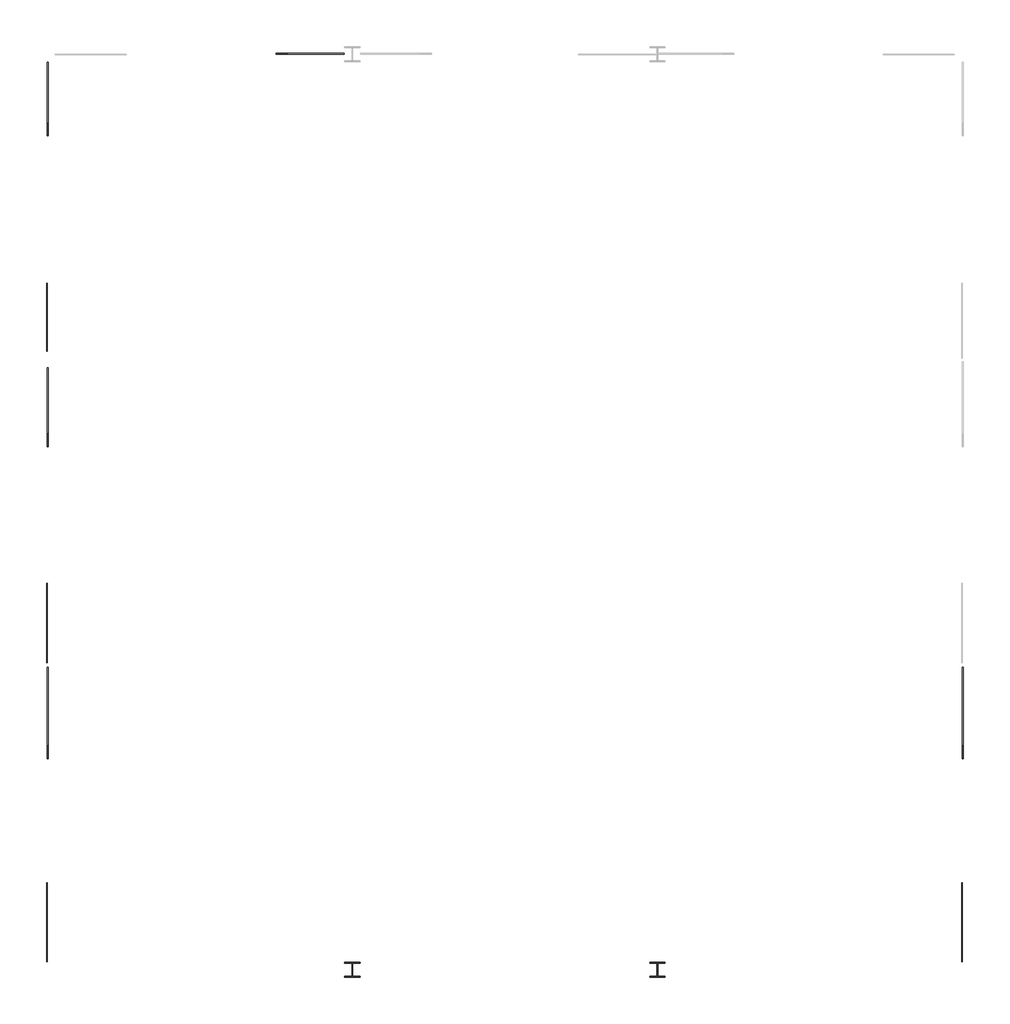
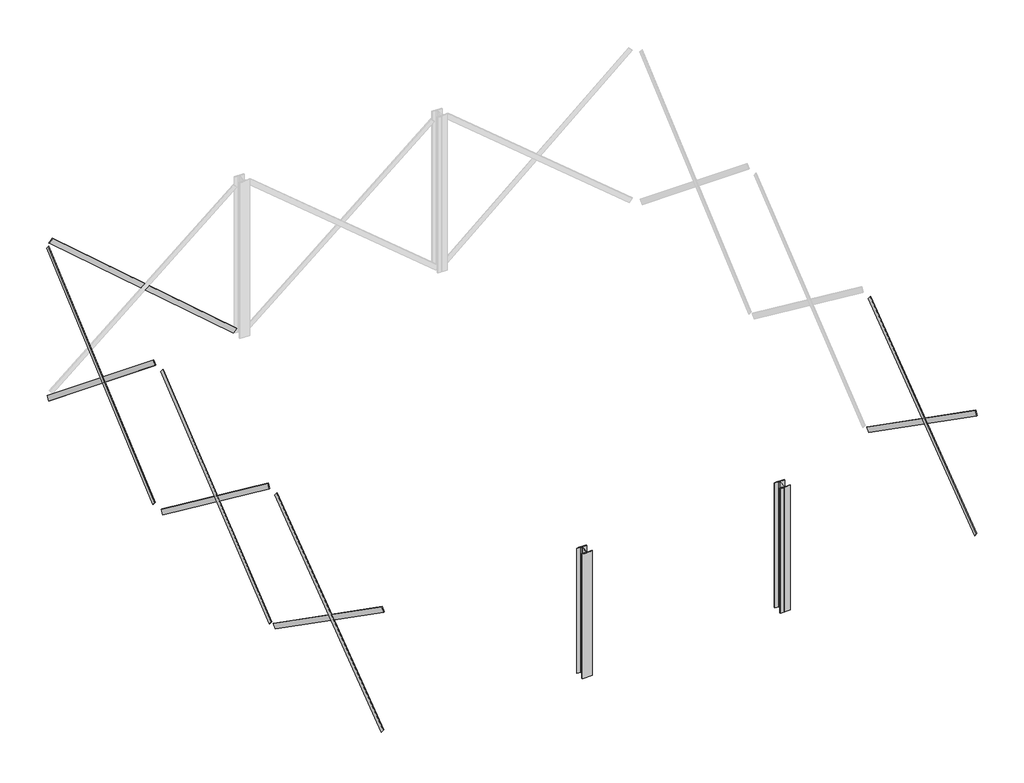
# One storey, part 1 of 2: 9 beams, 2 columns.
"""IFC4 building model written with IfcOpenShell, lengths in millimetres."""

from ifc_helpers import new_model, si_unit, frame, origin, place, context, project, spatial, polyline, circle_curve, ellipse_curve, transform, mapped, element, save
from ifc_brep_helpers import plane_surface, cylinder_surface, revolved_surface, advanced_brep
from components import m_platte_15x150_a1af23a7, m_platte_15x150_440fb802, m_platte_15x150_b669a1dd, m_platte_15x150_a89569ab, m_platte_15x150_ec3b9510

model = new_model("IFC4")

# Units and contexts
model_context = context("Model", 3, world=origin())
ifc_project = project(units=[si_unit("LENGTHUNIT", "METRE", prefix="MILLI")], contexts=[model_context])

# Site, building, storey
site = spatial("IfcSite", under=ifc_project)
building = spatial("IfcBuilding", under=site)
storey = spatial("IfcBuildingStorey", under=building, Name="Decke über EG", Elevation=3500.0)

# Beams
placement = place(None, origin())
m_platte_15x150_shape = m_platte_15x150_a1af23a7(model_context)
element("IfcBeam", 1, ObjectType="M_Platte : 15X150", at=placement, inside=storey, context=model_context, shape_type="MappedRepresentation", body=[
    mapped(m_platte_15x150_shape, transform((-5741.8279477, 9860.6318646, 6098.9276534), x_axis=(-0.7558227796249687, 0.0, 0.6547762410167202), y_axis=(0.0, -1.0, 0.0), z_axis=(0.6547762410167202, 0.0, 0.7558227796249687))),
])
element("IfcBeam", 2, ObjectType="M_Platte : 15X150", at=placement, inside=storey, context=model_context, shape_type="MappedRepresentation", body=[
    mapped(m_platte_15x150_shape, transform((-8749.3279477, 6853.1318646, 6098.9276534), x_axis=(0.0, 0.7558227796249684, 0.6547762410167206), y_axis=(-0.9999999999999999, 0.0, 0.0), z_axis=(0.0, -0.6547762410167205, 0.7558227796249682))),
])
m_platte_15x150_2_shape = m_platte_15x150_440fb802(model_context)
element("IfcBeam", 3, ObjectType="M_Platte : 15X150", at=placement, inside=storey, context=model_context, shape_type="MappedRepresentation", body=[
    mapped(m_platte_15x150_2_shape, transform((-8734.3279477, 6853.1318646, 5932.2609868), x_axis=(0.0, -0.7767774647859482, 0.6297751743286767), y_axis=(1.0, 0.0, 0.0), z_axis=(0.0, 0.6297751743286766, 0.7767774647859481))),
])
m_platte_15x150_3_shape = m_platte_15x150_b669a1dd(model_context)
element("IfcBeam", 4, ObjectType="M_Platte : 15X150", at=placement, inside=storey, context=model_context, shape_type="MappedRepresentation", body=[
    mapped(m_platte_15x150_3_shape, transform((-8734.3279477, 853.1318646, 5765.5943201), x_axis=(0.0, -0.7980045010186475, 0.6026514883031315), y_axis=(1.0, 0.0, 0.0), z_axis=(0.0, 0.6026514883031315, 0.7980045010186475))),
])
element("IfcBeam", 5, ObjectType="M_Platte : 15X150", at=placement, inside=storey, context=model_context, shape_type="MappedRepresentation", body=[
    mapped(m_platte_15x150_3_shape, transform((-8749.3279477, -5146.8681354, 5765.5943201), x_axis=(0.0, 0.798004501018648, 0.602651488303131), y_axis=(-1.0, 0.0, 0.0), z_axis=(0.0, -0.6026514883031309, 0.7980045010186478))),
])
m_platte_15x150_4_shape = m_platte_15x150_a89569ab(model_context)
element("IfcBeam", 6, ObjectType="M_Platte : 15X150", at=placement, inside=storey, context=model_context, shape_type="MappedRepresentation", body=[
    mapped(m_platte_15x150_4_shape, transform((-8749.3279477, 853.1318646, 5932.2609868), x_axis=(0.0, 0.7767774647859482, 0.6297751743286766), y_axis=(-0.9999999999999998, 0.0, 0.0), z_axis=(0.0, -0.6297751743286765, 0.7767774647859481))),
])
m_platte_15x150_5_shape = m_platte_15x150_ec3b9510(model_context)
element("IfcBeam", 7, ObjectType="M_Platte : 15X150", at=placement, inside=storey, context=model_context, shape_type="MappedRepresentation", body=[
    mapped(m_platte_15x150_5_shape, transform((-8734.3279477, -5146.8681354, 5598.9276534), x_axis=(0.0, -0.8193694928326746, 0.5732657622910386), y_axis=(1.0, 0.0, 0.0), z_axis=(0.0, 0.5732657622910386, 0.8193694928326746))),
])
element("IfcBeam", 8, ObjectType="M_Platte : 15X150", at=placement, inside=storey, context=model_context, shape_type="MappedRepresentation", body=[
    mapped(m_platte_15x150_3_shape, transform((9250.6720523, -5146.8681354, 5765.5943201), x_axis=(0.0, 0.7980045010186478, 0.6026514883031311), y_axis=(-1.0, 0.0, 0.0), z_axis=(0.0, -0.6026514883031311, 0.7980045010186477))),
])
element("IfcBeam", 9, ObjectType="M_Platte : 15X150", at=placement, inside=storey, context=model_context, shape_type="MappedRepresentation", body=[
    mapped(m_platte_15x150_5_shape, transform((9265.6720523, -5146.8681354, 5598.9276534), x_axis=(0.0, -0.8193694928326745, 0.5732657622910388), y_axis=(1.0, 0.0, 0.0), z_axis=(0.0, 0.5732657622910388, 0.8193694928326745))),
])

# Columns
element("IfcColumn", 10, ObjectType="HE-B Stütze : HEB 300", at=placement, inside=storey, context=model_context, shape_type="AdvancedBrep", body=[
    advanced_brep(
    [(-2891.8279477, -8296.8681354, 3500.0), (-2891.8279477, -8277.8681354, 3500.0), (-2774.3279477, -8277.8681354, 3500.0), (-2747.3279477, -8250.8681354, 3500.0), (-2747.3279477, -8042.8681354, 3500.0), (-2774.3279477, -8015.8681354, 3500.0), (-2891.8279477, -8015.8681354, 3500.0), (-2891.8279477, -7996.8681354, 3500.0), (-2591.8279477, -7996.8681354, 3500.0), (-2591.8279477, -8015.8681354, 3500.0), (-2709.3279477, -8015.8681354, 3500.0), (-2736.3279477, -8042.8681354, 3500.0), (-2736.3279477, -8250.8681354, 3500.0), (-2709.3279477, -8277.8681354, 3500.0), (-2591.8279477, -8277.8681354, 3500.0), (-2591.8279477, -8296.8681354, 3500.0), (-2891.8279477, -8296.8681354, 7507.5623229), (-2891.8279477, -8277.8681354, 7507.5623229), (-2841.8279477, -8277.8681354, 7507.5623229), (-2841.8279477, -8277.8681354, 7491.9512117), (-2774.3279477, -8277.8681354, 7491.9512117), (-2747.3279477, -8250.8681354, 7493.4512117), (-2747.3279477, -8042.8681354, 7505.0067673), (-2774.3279477, -8015.8681354, 7506.5067673), (-2841.8279477, -8015.8681354, 7506.5067673), (-2841.8279477, -8015.8681354, 7507.5623229), (-2891.8279477, -8015.8681354, 7507.5623229), (-2891.8279477, -7996.8681354, 7507.5623229), (-2841.8279477, -7996.8681354, 7507.5623229), (-2641.8279477, -7996.8681354, 7507.5623229), (-2591.8279477, -7996.8681354, 7507.5623229), (-2591.8279477, -8015.8681354, 7507.5623229), (-2641.8279477, -8015.8681354, 7507.5623229), (-2641.8279477, -8015.8681354, 7506.5067673), (-2709.3279477, -8015.8681354, 7506.5067673), (-2736.3279477, -8042.8681354, 7505.0067673), (-2736.3279477, -8250.8681354, 7493.4512117), (-2709.3279477, -8277.8681354, 7491.9512117), (-2641.8279477, -8277.8681354, 7491.9512117), (-2641.8279477, -8277.8681354, 7507.5623229), (-2591.8279477, -8277.8681354, 7507.5623229), (-2591.8279477, -8296.8681354, 7507.5623229), (-2720.8768659, -8296.8681354, 7507.5623229), (-2715.7279477, -8296.8681354, 7506.9203285), (-2641.8279477, -8296.8681354, 7506.9203285), (-2641.8279477, -8296.8681354, 7490.8956562), (-2841.8279477, -8296.8681354, 7490.8956562), (-2841.8279477, -8296.8681354, 7506.9203285), (-2767.9279477, -8296.8681354, 7506.9203285), (-2762.7790295, -8296.8681354, 7507.5623229), (-2767.9279477, -8285.3122374, 7507.5623229), (-2841.8279477, -8285.3122374, 7507.5623229), (-2641.8279477, -8285.3122374, 7507.5623229), (-2715.7279477, -8285.3122374, 7507.5623229)],
    [
        (0, 1),
        (1, 2),
        (2, 3, circle_curve(frame((-2774.3279477, -8250.8681354, 3500.0), z_axis=(0.0, 0.0, 1.0), x_axis=(-1.0, 0.0, 0.0)), 27.0)),
        (3, 4),
        (4, 5, circle_curve(frame((-2774.3279477, -8042.8681354, 3500.0), z_axis=(0.0, 0.0, 1.0), x_axis=(-1.0, 0.0, 0.0)), 27.0)),
        (5, 6),
        (6, 7),
        (7, 8),
        (8, 9),
        (9, 10),
        (10, 11, circle_curve(frame((-2709.3279477, -8042.8681354, 3500.0), z_axis=(0.0, 0.0, 1.0), x_axis=(-1.0, 0.0, 0.0)), 27.0)),
        (11, 12),
        (12, 13, circle_curve(frame((-2709.3279477, -8250.8681354, 3500.0), z_axis=(0.0, 0.0, 1.0), x_axis=(-1.0, 0.0, 0.0)), 27.0)),
        (13, 14),
        (14, 15),
        (15, 0),
        (0, 16),
        (16, 17),
        (17, 1),
        (17, 18),
        (18, 19),
        (19, 20),
        (20, 2),
        (20, 21, ellipse_curve(frame((-2774.3279477, -8250.8681354, 7493.4512117), z_axis=(0.0, -0.05547001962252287, 0.9984603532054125), x_axis=(0.0, -0.9984603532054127, -0.05547001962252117)), 27.0416346, 27.0)),
        (21, 3),
        (21, 22),
        (22, 4),
        (22, 23, ellipse_curve(frame((-2774.3279477, -8042.8681354, 7505.0067673), z_axis=(0.0, -0.05547001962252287, 0.9984603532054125), x_axis=(0.0, -0.9984603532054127, -0.05547001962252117)), 27.0416346, 27.0)),
        (23, 5),
        (23, 24),
        (24, 25),
        (25, 26),
        (26, 6),
        (26, 27),
        (27, 7),
        (27, 28),
        (28, 29),
        (29, 30),
        (30, 8),
        (30, 31),
        (31, 9),
        (31, 32),
        (32, 33),
        (33, 34),
        (34, 10),
        (34, 35, ellipse_curve(frame((-2709.3279477, -8042.8681354, 7505.0067673), z_axis=(0.0, -0.05547001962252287, 0.9984603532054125), x_axis=(0.0, -0.9984603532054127, -0.05547001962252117)), 27.0416346, 27.0)),
        (35, 11),
        (35, 36),
        (36, 12),
        (36, 37, ellipse_curve(frame((-2709.3279477, -8250.8681354, 7493.4512117), z_axis=(0.0, -0.05547001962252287, 0.9984603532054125), x_axis=(0.0, -0.9984603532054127, -0.05547001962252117)), 27.0416346, 27.0)),
        (37, 13),
        (37, 38),
        (38, 39),
        (39, 40),
        (40, 14),
        (40, 41),
        (41, 15),
        (41, 42),
        (42, 43, ellipse_curve(frame((-2715.7279477, -8296.8681354, 7527.952711), z_axis=(0.0, -1.0, 0.0), x_axis=(0.0, 0.0, 1.0)), 21.0323824, 21.0)),
        (43, 44),
        (44, 45),
        (45, 46),
        (46, 47),
        (47, 48),
        (48, 49, ellipse_curve(frame((-2767.9279477, -8296.8681354, 7527.952711), z_axis=(0.0, -1.0, 0.0), x_axis=(0.0, 0.0, 1.0)), 21.0323824, 21.0)),
        (49, 16),
        (49, 50, ellipse_curve(frame((-2767.9279477, -8663.8951214, 7507.5623229), z_axis=(0.0, 0.0, 1.0), x_axis=(0.0, 1.0, 0.0)), 378.5828839, 21.0)),
        (50, 51),
        (51, 18),
        (52, 44),
        (43, 53),
        (53, 52),
        (42, 53, ellipse_curve(frame((-2715.7279477, -8663.8951214, 7507.5623229), z_axis=(0.0, 0.0, -1.0), x_axis=(0.0, 1.0, 0.0)), 378.5828839, 21.0)),
        (48, 50),
        (47, 51),
        (46, 19),
        (28, 24),
        (45, 38),
        (33, 29),
        (52, 39),
        (25, 28),
        (29, 32),
    ],
    [
        plane_surface(frame((-2591.8279477, -8296.8681354, 3500.0), z_axis=(0.0, 0.0, -1.0), x_axis=(-1.0, 0.0, 0.0))),
        plane_surface(frame((-2891.8279477, -8277.8681354, 7507.5623229), z_axis=(-1.0, 0.0, 0.0), x_axis=(0.0, 0.0, -1.0))),
        plane_surface(frame((-2774.3279477, -8277.8681354, 7507.5623229), z_axis=(0.0, 1.0, 0.0), x_axis=(0.0, 0.0, -1.0))),
        revolved_surface(polyline([(-2801.3279477, -8250.8681354, 3500.0), (-2801.3279477, -8250.8681354, 7494.951211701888)]), (-2774.3279477, -8250.8681354, 3500.0), (0.0, 0.0, -1.0)),
        plane_surface(frame((-2747.3279477, -8042.8681354, 7507.5623229), z_axis=(-1.0, 0.0, 0.0), x_axis=(0.0, 0.0, -1.0))),
        revolved_surface(polyline([(-2801.3279477, -8042.8681354, 3500.0), (-2801.3279477, -8042.8681354, 7506.5067673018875)]), (-2774.3279477, -8042.8681354, 3500.0), (0.0, 0.0, -1.0)),
        plane_surface(frame((-2891.8279477, -8015.8681354, 7507.5623229), z_axis=(0.0, -1.0, 0.0), x_axis=(0.0, 0.0, -1.0))),
        plane_surface(frame((-2891.8279477, -7996.8681354, 7507.5623229), z_axis=(-1.0, 0.0, 0.0), x_axis=(0.0, 0.0, -1.0))),
        plane_surface(frame((-2591.8279477, -7996.8681354, 7507.5623229), z_axis=(0.0, 1.0, 0.0), x_axis=(0.0, 0.0, -1.0))),
        plane_surface(frame((-2591.8279477, -8015.8681354, 7507.5623229), z_axis=(1.0, 0.0, 0.0), x_axis=(0.0, 0.0, -1.0))),
        plane_surface(frame((-2709.3279477, -8015.8681354, 7507.5623229), z_axis=(0.0, -1.0, 0.0), x_axis=(0.0, 0.0, -1.0))),
        revolved_surface(polyline([(-2736.3279477, -8042.8681354, 3500.0), (-2736.3279477, -8042.8681354, 7506.5067673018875)]), (-2709.3279477, -8042.8681354, 3500.0), (0.0, 0.0, -1.0)),
        plane_surface(frame((-2736.3279477, -8250.8681354, 7507.5623229), z_axis=(1.0, 0.0, 0.0), x_axis=(0.0, 0.0, -1.0))),
        revolved_surface(polyline([(-2736.3279477, -8250.8681354, 3500.0), (-2736.3279477, -8250.8681354, 7494.951211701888)]), (-2709.3279477, -8250.8681354, 3500.0), (0.0, 0.0, -1.0)),
        plane_surface(frame((-2591.8279477, -8277.8681354, 7507.5623229), z_axis=(0.0, 1.0, 0.0), x_axis=(0.0, 0.0, -1.0))),
        plane_surface(frame((-2591.8279477, -8296.8681354, 7507.5623229), z_axis=(1.0, 0.0, 0.0), x_axis=(0.0, 0.0, -1.0))),
        plane_surface(frame((-2891.8279477, -8296.8681354, 7507.5623229), z_axis=(0.0, -1.0, 0.0), x_axis=(0.0, 0.0, -1.0))),
        plane_surface(frame((-2591.8279477, -8296.8681354, 7507.5623229), z_axis=(0.0, 0.0, 1.0), x_axis=(1.0, 0.0, 0.0))),
        plane_surface(frame((-2641.8279477, -9130.7838392, 7460.5916783), z_axis=(0.0, 0.05547001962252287, -0.9984603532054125), x_axis=(0.0, 0.9984603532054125, 0.05547001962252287))),
        cylinder_surface(frame((-2715.7279477, -9131.9487096, 7481.5593457), z_axis=(0.0, 0.9984603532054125, 0.05547001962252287), x_axis=(-1.0, 0.0, 0.0)), 21.0),
        cylinder_surface(frame((-2767.9279477, -9131.9487096, 7481.5593457), z_axis=(0.0, 0.9984603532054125, 0.05547001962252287), x_axis=(-1.0, 0.0, 0.0)), 21.0),
        plane_surface(frame((-2767.9279477, -9130.7838392, 7460.5916783), z_axis=(0.0, 0.05547001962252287, -0.9984603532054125), x_axis=(0.0, 0.9984603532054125, 0.05547001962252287))),
        plane_surface(frame((-2841.8279477, -9130.7838392, 7460.5916783), z_axis=(1.0, 0.0, 0.0), x_axis=(0.0, 0.9984603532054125, 0.05547001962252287))),
        plane_surface(frame((-2841.8279477, -9129.8963189, 7444.6163127), z_axis=(0.0, -0.05547001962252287, 0.9984603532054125), x_axis=(0.0, 0.9984603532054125, 0.05547001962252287))),
        plane_surface(frame((-2641.8279477, -9129.8963189, 7444.6163127), z_axis=(-1.0, 0.0, 0.0), x_axis=(0.0, 0.9984603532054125, 0.05547001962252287))),
    ],
    [
        (0, [[1, 2, 3, 4, 5, 6, 7, 8, 9, 10, 11, 12, 13, 14, 15, 16]]),
        (1, [[-1, 17, 18, 19]]),
        (2, [[-2, -19, 20, 21, 22, 23]]),
        (3, [[-3, -23, 24, 25]]),
        (4, [[-4, -25, 26, 27]]),
        (5, [[-5, -27, 28, 29]]),
        (6, [[-6, -29, 30, 31, 32, 33]]),
        (7, [[-7, -33, 34, 35]]),
        (8, [[-8, -35, 36, 37, 38, 39]]),
        (9, [[-9, -39, 40, 41]]),
        (10, [[-10, -41, 42, 43, 44, 45]]),
        (11, [[-11, -45, 46, 47]]),
        (12, [[-12, -47, 48, 49]]),
        (13, [[-13, -49, 50, 51]]),
        (14, [[-14, -51, 52, 53, 54, 55]]),
        (15, [[-15, -55, 56, 57]]),
        (16, [[-16, -57, 58, 59, 60, 61, 62, 63, 64, 65, 66, -17]]),
        (17, [[-18, -66, 67, 68, 69, -20]]),
        (18, [[70, -60, 71, 72]]),
        (19, [[-71, -59, 73]]),
        (20, [[74, -67, -65]]),
        (21, [[-74, -64, 75, -68]]),
        (22, [[-75, -63, 76, -21, -69]]),
        (23, [[77, -30, -28, -26, -24, -22, -76, -62, 78, -52, -50, -48, -46, -44, 79, -37]]),
        (24, [[-70, 80, -53, -78, -61]]),
        (17, [[-34, -32, 81, -36]]),
        (17, [[-40, -38, 82, -42]]),
        (17, [[-56, -54, -80, -72, -73, -58]]),
        (22, [[-77, -81, -31]]),
        (24, [[-79, -43, -82]]),
    ],
),
])
element("IfcColumn", 11, ObjectType="HE-B Stütze : HEB 300", at=placement, inside=storey, context=model_context, shape_type="AdvancedBrep", body=[
    advanced_brep(
    [(3108.1720523, -8296.8681354, 3500.0), (3108.1720523, -8277.8681354, 3500.0), (3225.6720523, -8277.8681354, 3500.0), (3252.6720523, -8250.8681354, 3500.0), (3252.6720523, -8042.8681354, 3500.0), (3225.6720523, -8015.8681354, 3500.0), (3108.1720523, -8015.8681354, 3500.0), (3108.1720523, -7996.8681354, 3500.0), (3408.1720523, -7996.8681354, 3500.0), (3408.1720523, -8015.8681354, 3500.0), (3290.6720523, -8015.8681354, 3500.0), (3263.6720523, -8042.8681354, 3500.0), (3263.6720523, -8250.8681354, 3500.0), (3290.6720523, -8277.8681354, 3500.0), (3408.1720523, -8277.8681354, 3500.0), (3408.1720523, -8296.8681354, 3500.0), (3108.1720523, -8296.8681354, 7507.5623229), (3108.1720523, -8277.8681354, 7507.5623229), (3158.1720523, -8277.8681354, 7507.5623229), (3158.1720523, -8277.8681354, 7491.9512117), (3225.6720523, -8277.8681354, 7491.9512117), (3252.6720523, -8250.8681354, 7493.4512117), (3252.6720523, -8042.8681354, 7505.0067673), (3225.6720523, -8015.8681354, 7506.5067673), (3158.1720523, -8015.8681354, 7506.5067673), (3158.1720523, -8015.8681354, 7507.5623229), (3108.1720523, -8015.8681354, 7507.5623229), (3108.1720523, -7996.8681354, 7507.5623229), (3158.1720523, -7996.8681354, 7507.5623229), (3358.1720523, -7996.8681354, 7507.5623229), (3408.1720523, -7996.8681354, 7507.5623229), (3408.1720523, -8015.8681354, 7507.5623229), (3358.1720523, -8015.8681354, 7507.5623229), (3358.1720523, -8015.8681354, 7506.5067673), (3290.6720523, -8015.8681354, 7506.5067673), (3263.6720523, -8042.8681354, 7505.0067673), (3263.6720523, -8250.8681354, 7493.4512117), (3290.6720523, -8277.8681354, 7491.9512117), (3358.1720523, -8277.8681354, 7491.9512117), (3358.1720523, -8277.8681354, 7507.5623229), (3408.1720523, -8277.8681354, 7507.5623229), (3408.1720523, -8296.8681354, 7507.5623229), (3279.1231341, -8296.8681354, 7507.5623229), (3284.2720523, -8296.8681354, 7506.9203285), (3358.1720523, -8296.8681354, 7506.9203285), (3358.1720523, -8296.8681354, 7490.8956562), (3158.1720523, -8296.8681354, 7490.8956562), (3158.1720523, -8296.8681354, 7506.9203285), (3232.0720523, -8296.8681354, 7506.9203285), (3237.2209705, -8296.8681354, 7507.5623229), (3232.0720523, -8285.3122374, 7507.5623229), (3158.1720523, -8285.3122374, 7507.5623229), (3358.1720523, -8285.3122374, 7507.5623229), (3284.2720523, -8285.3122374, 7507.5623229)],
    [
        (0, 1),
        (1, 2),
        (2, 3, circle_curve(frame((3225.6720523, -8250.8681354, 3500.0), z_axis=(0.0, 0.0, 1.0), x_axis=(-1.0, 0.0, 0.0)), 27.0)),
        (3, 4),
        (4, 5, circle_curve(frame((3225.6720523, -8042.8681354, 3500.0), z_axis=(0.0, 0.0, 1.0), x_axis=(-1.0, 0.0, 0.0)), 27.0)),
        (5, 6),
        (6, 7),
        (7, 8),
        (8, 9),
        (9, 10),
        (10, 11, circle_curve(frame((3290.6720523, -8042.8681354, 3500.0), z_axis=(0.0, 0.0, 1.0), x_axis=(-1.0, 0.0, 0.0)), 27.0)),
        (11, 12),
        (12, 13, circle_curve(frame((3290.6720523, -8250.8681354, 3500.0), z_axis=(0.0, 0.0, 1.0), x_axis=(-1.0, 0.0, 0.0)), 27.0)),
        (13, 14),
        (14, 15),
        (15, 0),
        (0, 16),
        (16, 17),
        (17, 1),
        (17, 18),
        (18, 19),
        (19, 20),
        (20, 2),
        (20, 21, ellipse_curve(frame((3225.6720523, -8250.8681354, 7493.4512117), z_axis=(0.0, -0.05547001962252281, 0.9984603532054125), x_axis=(0.0, -0.9984603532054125, -0.05547001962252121)), 27.0416346, 27.0)),
        (21, 3),
        (21, 22),
        (22, 4),
        (22, 23, ellipse_curve(frame((3225.6720523, -8042.8681354, 7505.0067673), z_axis=(0.0, -0.05547001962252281, 0.9984603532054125), x_axis=(0.0, -0.9984603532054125, -0.05547001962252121)), 27.0416346, 27.0)),
        (23, 5),
        (23, 24),
        (24, 25),
        (25, 26),
        (26, 6),
        (26, 27),
        (27, 7),
        (27, 28),
        (28, 29),
        (29, 30),
        (30, 8),
        (30, 31),
        (31, 9),
        (31, 32),
        (32, 33),
        (33, 34),
        (34, 10),
        (34, 35, ellipse_curve(frame((3290.6720523, -8042.8681354, 7505.0067673), z_axis=(0.0, -0.05547001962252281, 0.9984603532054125), x_axis=(0.0, -0.9984603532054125, -0.05547001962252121)), 27.0416346, 27.0)),
        (35, 11),
        (35, 36),
        (36, 12),
        (36, 37, ellipse_curve(frame((3290.6720523, -8250.8681354, 7493.4512117), z_axis=(0.0, -0.05547001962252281, 0.9984603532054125), x_axis=(0.0, -0.9984603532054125, -0.05547001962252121)), 27.0416346, 27.0)),
        (37, 13),
        (37, 38),
        (38, 39),
        (39, 40),
        (40, 14),
        (40, 41),
        (41, 15),
        (41, 42),
        (42, 43, ellipse_curve(frame((3284.2720523, -8296.8681354, 7527.952711), z_axis=(0.0, -1.0, 0.0), x_axis=(0.0, 0.0, 1.0)), 21.0323824, 21.0)),
        (43, 44),
        (44, 45),
        (45, 46),
        (46, 47),
        (47, 48),
        (48, 49, ellipse_curve(frame((3232.0720523, -8296.8681354, 7527.952711), z_axis=(0.0, -1.0, 0.0), x_axis=(0.0, 0.0, 1.0)), 21.0323824, 21.0)),
        (49, 16),
        (49, 50, ellipse_curve(frame((3232.0720523, -8663.8951214, 7507.5623229), z_axis=(0.0, 0.0, 1.0), x_axis=(0.0, 1.0, 0.0)), 378.5828839, 21.0)),
        (50, 51),
        (51, 18),
        (52, 44),
        (43, 53),
        (53, 52),
        (42, 53, ellipse_curve(frame((3284.2720523, -8663.8951214, 7507.5623229), z_axis=(0.0, 0.0, -1.0), x_axis=(0.0, 1.0, 0.0)), 378.5828839, 21.0)),
        (48, 50),
        (47, 51),
        (46, 19),
        (28, 24),
        (45, 38),
        (33, 29),
        (52, 39),
        (25, 28),
        (29, 32),
    ],
    [
        plane_surface(frame((3408.1720523, -8296.8681354, 3500.0), z_axis=(0.0, 0.0, -1.0), x_axis=(-1.0, 0.0, 0.0))),
        plane_surface(frame((3108.1720523, -8277.8681354, 7507.5623229), z_axis=(-1.0, 0.0, 0.0), x_axis=(0.0, 0.0, -1.0))),
        plane_surface(frame((3225.6720523, -8277.8681354, 7507.5623229), z_axis=(0.0, 1.0, 0.0), x_axis=(0.0, 0.0, -1.0))),
        revolved_surface(polyline([(3198.6720523, -8250.8681354, 3500.0), (3198.6720523, -8250.8681354, 7494.951211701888)]), (3225.6720523, -8250.8681354, 3500.0), (0.0, 0.0, -1.0)),
        plane_surface(frame((3252.6720523, -8042.8681354, 7507.5623229), z_axis=(-1.0, 0.0, 0.0), x_axis=(0.0, 0.0, -1.0))),
        revolved_surface(polyline([(3198.6720523, -8042.8681354, 3500.0), (3198.6720523, -8042.8681354, 7506.5067673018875)]), (3225.6720523, -8042.8681354, 3500.0), (0.0, 0.0, -1.0)),
        plane_surface(frame((3108.1720523, -8015.8681354, 7507.5623229), z_axis=(0.0, -1.0, 0.0), x_axis=(0.0, 0.0, -1.0))),
        plane_surface(frame((3108.1720523, -7996.8681354, 7507.5623229), z_axis=(-1.0, 0.0, 0.0), x_axis=(0.0, 0.0, -1.0))),
        plane_surface(frame((3408.1720523, -7996.8681354, 7507.5623229), z_axis=(0.0, 1.0, 0.0), x_axis=(0.0, 0.0, -1.0))),
        plane_surface(frame((3408.1720523, -8015.8681354, 7507.5623229), z_axis=(1.0, 0.0, 0.0), x_axis=(0.0, 0.0, -1.0))),
        plane_surface(frame((3290.6720523, -8015.8681354, 7507.5623229), z_axis=(0.0, -1.0, 0.0), x_axis=(0.0, 0.0, -1.0))),
        revolved_surface(polyline([(3263.6720523, -8042.8681354, 3500.0), (3263.6720523, -8042.8681354, 7506.5067673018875)]), (3290.6720523, -8042.8681354, 3500.0), (0.0, 0.0, -1.0)),
        plane_surface(frame((3263.6720523, -8250.8681354, 7507.5623229), z_axis=(1.0, 0.0, 0.0), x_axis=(0.0, 0.0, -1.0))),
        revolved_surface(polyline([(3263.6720523, -8250.8681354, 3500.0), (3263.6720523, -8250.8681354, 7494.951211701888)]), (3290.6720523, -8250.8681354, 3500.0), (0.0, 0.0, -1.0)),
        plane_surface(frame((3408.1720523, -8277.8681354, 7507.5623229), z_axis=(0.0, 1.0, 0.0), x_axis=(0.0, 0.0, -1.0))),
        plane_surface(frame((3408.1720523, -8296.8681354, 7507.5623229), z_axis=(1.0, 0.0, 0.0), x_axis=(0.0, 0.0, -1.0))),
        plane_surface(frame((3108.1720523, -8296.8681354, 7507.5623229), z_axis=(0.0, -1.0, 0.0), x_axis=(0.0, 0.0, -1.0))),
        plane_surface(frame((3408.1720523, -8296.8681354, 7507.5623229), z_axis=(0.0, 0.0, 1.0), x_axis=(1.0, 0.0, 0.0))),
        plane_surface(frame((3358.1720523, -9130.7838392, 7460.5916783), z_axis=(0.0, 0.05547001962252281, -0.9984603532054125), x_axis=(0.0, 0.9984603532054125, 0.05547001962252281))),
        cylinder_surface(frame((3284.2720523, -9131.9487096, 7481.5593457), z_axis=(0.0, 0.9984603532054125, 0.05547001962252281), x_axis=(-1.0, 0.0, 0.0)), 21.0),
        cylinder_surface(frame((3232.0720523, -9131.9487096, 7481.5593457), z_axis=(0.0, 0.9984603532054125, 0.05547001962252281), x_axis=(-1.0, 0.0, 0.0)), 21.0),
        plane_surface(frame((3232.0720523, -9130.7838392, 7460.5916783), z_axis=(0.0, 0.05547001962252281, -0.9984603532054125), x_axis=(0.0, 0.9984603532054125, 0.05547001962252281))),
        plane_surface(frame((3158.1720523, -9130.7838392, 7460.5916783), z_axis=(1.0, 0.0, 0.0), x_axis=(0.0, 0.9984603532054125, 0.05547001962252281))),
        plane_surface(frame((3158.1720523, -9129.8963189, 7444.6163127), z_axis=(0.0, -0.05547001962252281, 0.9984603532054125), x_axis=(0.0, 0.9984603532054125, 0.05547001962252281))),
        plane_surface(frame((3358.1720523, -9129.8963189, 7444.6163127), z_axis=(-1.0, 0.0, 0.0), x_axis=(0.0, 0.9984603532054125, 0.05547001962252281))),
    ],
    [
        (0, [[1, 2, 3, 4, 5, 6, 7, 8, 9, 10, 11, 12, 13, 14, 15, 16]]),
        (1, [[-1, 17, 18, 19]]),
        (2, [[-2, -19, 20, 21, 22, 23]]),
        (3, [[-3, -23, 24, 25]]),
        (4, [[-4, -25, 26, 27]]),
        (5, [[-5, -27, 28, 29]]),
        (6, [[-6, -29, 30, 31, 32, 33]]),
        (7, [[-7, -33, 34, 35]]),
        (8, [[-8, -35, 36, 37, 38, 39]]),
        (9, [[-9, -39, 40, 41]]),
        (10, [[-10, -41, 42, 43, 44, 45]]),
        (11, [[-11, -45, 46, 47]]),
        (12, [[-12, -47, 48, 49]]),
        (13, [[-13, -49, 50, 51]]),
        (14, [[-14, -51, 52, 53, 54, 55]]),
        (15, [[-15, -55, 56, 57]]),
        (16, [[-16, -57, 58, 59, 60, 61, 62, 63, 64, 65, 66, -17]]),
        (17, [[-18, -66, 67, 68, 69, -20]]),
        (18, [[70, -60, 71, 72]]),
        (19, [[-71, -59, 73]]),
        (20, [[74, -67, -65]]),
        (21, [[-74, -64, 75, -68]]),
        (22, [[-75, -63, 76, -21, -69]]),
        (23, [[77, -30, -28, -26, -24, -22, -76, -62, 78, -52, -50, -48, -46, -44, 79, -37]]),
        (24, [[-70, 80, -53, -78, -61]]),
        (17, [[-34, -32, 81, -36]]),
        (17, [[-40, -38, 82, -42]]),
        (17, [[-56, -54, -80, -72, -73, -58]]),
        (22, [[-77, -81, -31]]),
        (24, [[-79, -43, -82]]),
    ],
),
])

save(model, "model.ifc")
